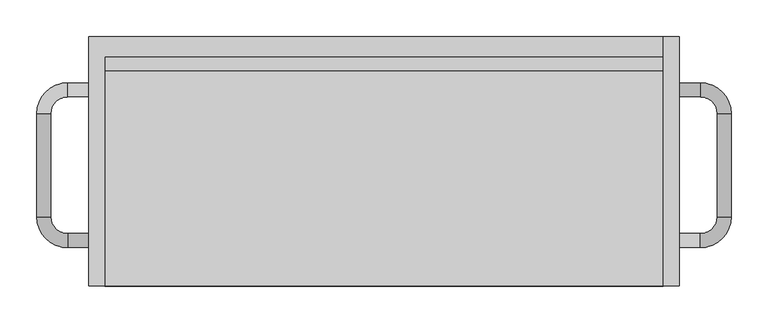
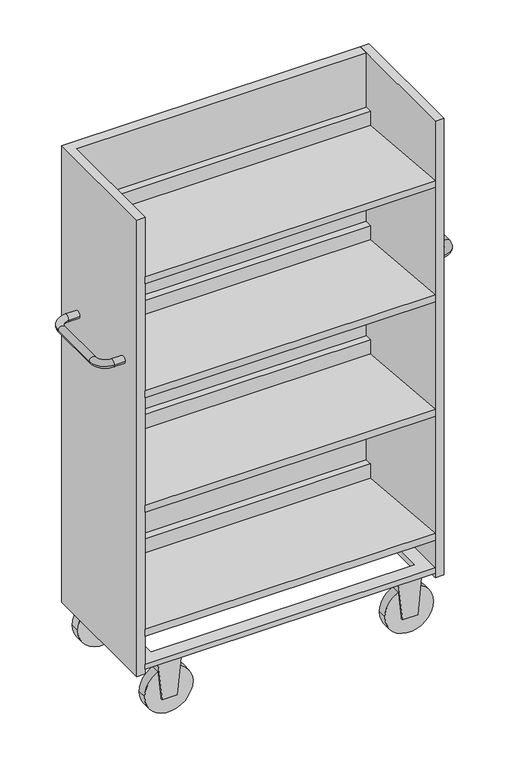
"""IFC4 building model written with IfcOpenShell, lengths in millimetres: furniture geometry, BK Library - Exlibris - Book Trolley Large : BK Library - Exlibris - Book Trolley Large."""

from ifc_helpers import new_model, si_unit, point, frame, frame_2d, origin, place, context, project, spatial, polyline, circle_curve, ellipse_curve, trimmed, segment, composite_curve, outline, extrude, faceted_brep, source, transform, mapped, element, save
from ifc_brep_helpers import plane_surface, cylinder_surface, revolved_surface, advanced_brep


def furniture_fa00082e(model_context):
    return source(origin(), model_context, "Body", "SolidModel", [
        extrude(outline(polyline([(-170.0000004, 235.2662928), (-170.0000004, 254.3381826), (123.9999896, 228.739766), (123.9999896, 268.0135567), (142.9999896, 268.0135567), (142.9999896, 208.0135567), (-170.0000004, 235.2662928)])), frame((-379.9999958, 0.0, 0.0), z_axis=(1.0, 0.0, 0.0), x_axis=(0.0, 1.0, 0.0)), (0.0, 0.0, 1.0), 759.9999767),
        extrude(outline(polyline([(-170.0000004, 895.2679976), (-170.0000004, 914.3405715), (123.9999896, 888.6189123), (123.9999896, 927.8840534), (142.9999896, 927.8840534), (142.9999896, 867.8840534), (-170.0000004, 895.2679976)])), frame((-379.9999958, 0.0, 0.0), z_axis=(1.0, 0.0, 0.0), x_axis=(0.0, 1.0, 0.0)), (0.0, 0.0, 1.0), 759.9999767),
        extrude(outline(polyline([(-170.0000004, 578.9679728), (-170.0000004, 598.0405467), (123.9999896, 572.3188875), (123.9999896, 611.5840286), (142.9999896, 611.5840286), (142.9999896, 551.5840286), (-170.0000004, 578.9679728)])), frame((-379.9999958, 0.0, 0.0), z_axis=(1.0, 0.0, 0.0), x_axis=(0.0, 1.0, 0.0)), (0.0, 0.0, 1.0), 759.9999767),
        extrude(outline(polyline([(-170.0000004, 1211.5680224), (-170.0000004, 1230.6405963), (123.9999896, 1204.9189371), (123.9999896, 1244.1840782), (142.9999896, 1244.1840782), (142.9999896, 1184.1840782), (-170.0000004, 1211.5680224)])), frame((-379.9999958, 0.0, 0.0), z_axis=(1.0, 0.0, 0.0), x_axis=(0.0, 1.0, 0.0)), (0.0, 0.0, 1.0), 759.9999767),
        extrude(outline(polyline([(-379.9999958, -170.0000004), (-379.9999958, 169.9999984), (379.9999958, 169.9999984), (379.9999958, -170.0000004), (-379.9999958, -170.0000004)]), holes=[polyline([(345.0000098, 135.0), (-345.0, 135.0), (-345.0, -135.000002), (345.0000098, -135.000002), (345.0000098, 135.0)])]), frame((0.0, 0.0, 143.5246151), z_axis=(0.0, 0.0, 1.0), x_axis=(1.0, 0.0, 0.0)), (0.0, 0.0, 1.0), 14.9999928),
        advanced_brep(
        [(401.9999994, 88.0399554, 972.0246135), (401.9999994, 107.0399554, 972.0246135), (430.8160051, 107.0399554, 972.0246135), (430.8160051, 88.0399554, 972.0246135), (453.8160051, 65.0399554, 972.0246135), (472.8160051, 65.0399554, 972.0246135), (472.8160051, -75.5438715, 972.0246135), (453.8160051, -75.5438715, 972.0246135), (430.8622357, -98.4976409, 972.0246135), (430.8622357, -117.4976409, 972.0246135), (401.9999994, -98.4976409, 972.0246135), (401.9999994, -117.4976409, 972.0246135)],
        [
            (0, 1, circle_curve(frame((401.9999994, 97.5399554, 972.0246135), z_axis=(-1.0, 0.0, 0.0), x_axis=(0.0, 1.0, 0.0)), 9.5)),
            (1, 0, circle_curve(frame((401.9999994, 97.5399554, 972.0246135), z_axis=(-1.0, 0.0, 0.0), x_axis=(0.0, 1.0, 0.0)), 9.5)),
            (1, 2),
            (2, 3, circle_curve(frame((430.8160051, 97.5399554, 972.0246135), z_axis=(-1.0, 0.0, 0.0), x_axis=(0.0, 1.0, 0.0)), 9.5)),
            (3, 0),
            (3, 2, circle_curve(frame((430.8160051, 97.5399554, 972.0246135), z_axis=(-1.0, 0.0, 0.0), x_axis=(0.0, 1.0, 0.0)), 9.5)),
            (4, 3, circle_curve(frame((430.8160051, 65.0399554, 972.0246135), z_axis=(0.0, 0.0, 1.0), x_axis=(0.0, 1.0, 0.0)), 23.0)),
            (2, 5, circle_curve(frame((430.8160051, 65.0399554, 972.0246135), z_axis=(0.0, 0.0, -1.0), x_axis=(0.0, 1.0, 0.0)), 42.0)),
            (5, 4, circle_curve(frame((463.3160051, 65.0399554, 972.0246135), z_axis=(0.0, 1.0, 0.0), x_axis=(1.0, 0.0, 0.0)), 9.5)),
            (4, 5, circle_curve(frame((463.3160051, 65.0399554, 972.0246135), z_axis=(0.0, 1.0, 0.0), x_axis=(1.0, 0.0, 0.0)), 9.5)),
            (5, 6),
            (6, 7, circle_curve(frame((463.3160051, -75.5438715, 972.0246135), z_axis=(0.0, 1.0, 0.0), x_axis=(1.0, 0.0, 0.0)), 9.5)),
            (7, 4),
            (7, 6, circle_curve(frame((463.3160051, -75.5438715, 972.0246135), z_axis=(0.0, 1.0, 0.0), x_axis=(1.0, 0.0, 0.0)), 9.5)),
            (8, 7, circle_curve(frame((430.8622357, -75.5438715, 972.0246135), z_axis=(0.0, 0.0, 1.0), x_axis=(1.0, 0.0, 0.0)), 22.9537695)),
            (6, 9, circle_curve(frame((430.8622357, -75.5438715, 972.0246135), z_axis=(0.0, 0.0, -1.0), x_axis=(1.0, 0.0, 0.0)), 41.9537695)),
            (9, 8, circle_curve(frame((430.8622357, -107.9976409, 972.0246135), z_axis=(1.0, 0.0, 0.0), x_axis=(0.0, -1.0, 0.0)), 9.5)),
            (8, 9, circle_curve(frame((430.8622357, -107.9976409, 972.0246135), z_axis=(1.0, 0.0, 0.0), x_axis=(0.0, -1.0, 0.0)), 9.5)),
            (10, 11, circle_curve(frame((401.9999994, -107.9976409, 972.0246135), z_axis=(-1.0, 0.0, 0.0), x_axis=(0.0, -1.0, 0.0)), 9.5)),
            (11, 10, circle_curve(frame((401.9999994, -107.9976409, 972.0246135), z_axis=(-1.0, 0.0, 0.0), x_axis=(0.0, -1.0, 0.0)), 9.5)),
            (9, 11),
            (10, 8),
        ],
        [
            plane_surface(frame((401.9999994, 88.0399554, 45.0237324), z_axis=(-1.0, 0.0, 0.0), x_axis=(0.0, 0.0, 1.0))),
            cylinder_surface(frame((401.9999994, 97.5399554, 972.0246135), z_axis=(-1.0, 0.0, 0.0), x_axis=(0.0, 1.0, 0.0)), 9.5),
            revolved_surface(trimmed(ellipse_curve(frame((430.8160051, 97.5399554, 972.0246135), z_axis=(-1.0, 0.0, 0.0), x_axis=(0.0, 1.0, 0.0)), 9.5, 9.5), [point((430.8160051, 107.0399554, 972.0246135))], [point((430.8160051, 88.0399554, 972.0246135))], True, "CARTESIAN"), (430.8160051, 65.0399554, 45.0237324), (0.0, 0.0, -1.0)),
            revolved_surface(trimmed(ellipse_curve(frame((430.8160051, 97.5399554, 972.0246135), z_axis=(-1.0, 0.0, 0.0), x_axis=(0.0, 1.0, 0.0)), 9.5, 9.5), [point((430.8160051, 88.0399554, 972.0246135))], [point((430.8160051, 107.0399554, 972.0246135))], True, "CARTESIAN"), (430.8160051, 65.0399554, 45.0237324), (0.0, 0.0, -1.0)),
            cylinder_surface(frame((463.3160051, 65.0399554, 972.0246135), z_axis=(0.0, 1.0, 0.0), x_axis=(1.0, 0.0, 0.0)), 9.5),
            revolved_surface(trimmed(ellipse_curve(frame((463.3160051, -75.5438715, 972.0246135), z_axis=(0.0, 1.0, 0.0), x_axis=(1.0, 0.0, 0.0)), 9.5, 9.5), [point((472.8160051, -75.5438715, 972.0246135))], [point((453.8160051, -75.5438715, 972.0246135))], True, "CARTESIAN"), (430.8622357, -75.5438715, 45.0237324), (0.0, 0.0, -1.0)),
            revolved_surface(trimmed(ellipse_curve(frame((463.3160051, -75.5438715, 972.0246135), z_axis=(0.0, 1.0, 0.0), x_axis=(1.0, 0.0, 0.0)), 9.5, 9.5), [point((453.8160051, -75.5438715, 972.0246135))], [point((472.8160051, -75.5438715, 972.0246135))], True, "CARTESIAN"), (430.8622357, -75.5438715, 45.0237324), (0.0, 0.0, -1.0)),
            plane_surface(frame((401.9999994, -98.4976409, 45.0237324), z_axis=(-1.0, 0.0, 0.0), x_axis=(0.0, 0.0, 1.0))),
            cylinder_surface(frame((430.8622357, -107.9976409, 972.0246135), z_axis=(1.0, 0.0, 0.0), x_axis=(0.0, -1.0, 0.0)), 9.5),
        ],
        [
            (0, [[1, 2]]),
            (1, [[-2, 3, 4, 5]]),
            (1, [[-1, -5, 6, -3]]),
            (2, [[7, -4, 8, 9]]),
            (3, [[-8, -6, -7, 10]]),
            (4, [[-9, 11, 12, 13]]),
            (4, [[-10, -13, 14, -11]]),
            (5, [[15, -12, 16, 17]]),
            (6, [[-16, -14, -15, 18]]),
            (7, [[19, 20]]),
            (8, [[-17, 21, -19, 22]]),
            (8, [[-18, -22, -20, -21]]),
        ],
    ),
        advanced_brep(
        [(-401.9999994, 107.0399554, 972.0246135), (-401.9999994, 88.0399554, 972.0246135), (-430.8160051, 107.0399554, 972.0246135), (-430.8160051, 88.0399554, 972.0246135), (-453.8160051, 65.0399554, 972.0246135), (-472.8160051, 65.0399554, 972.0246135), (-472.8160051, -75.5438715, 972.0246135), (-453.8160051, -75.5438715, 972.0246135), (-430.8622357, -98.4976409, 972.0246135), (-430.8622357, -117.4976409, 972.0246135), (-401.9999994, -117.4976409, 972.0246135), (-401.9999994, -98.4976409, 972.0246135)],
        [
            (0, 1, circle_curve(frame((-401.9999994, 97.5399554, 972.0246135), z_axis=(1.0, 0.0, 0.0), x_axis=(0.0, -1.0, 0.0)), 9.5)),
            (1, 0, circle_curve(frame((-401.9999994, 97.5399554, 972.0246135), z_axis=(1.0, 0.0, 0.0), x_axis=(0.0, -1.0, 0.0)), 9.5)),
            (0, 2),
            (2, 3, circle_curve(frame((-430.8160051, 97.5399554, 972.0246135), z_axis=(1.0, 0.0, 0.0), x_axis=(0.0, -1.0, 0.0)), 9.5)),
            (3, 1),
            (3, 2, circle_curve(frame((-430.8160051, 97.5399554, 972.0246135), z_axis=(1.0, 0.0, 0.0), x_axis=(0.0, -1.0, 0.0)), 9.5)),
            (4, 3, circle_curve(frame((-430.8160051, 65.0399554, 972.0246135), z_axis=(0.0, 0.0, -1.0), x_axis=(0.0, 1.0, 0.0)), 23.0)),
            (2, 5, circle_curve(frame((-430.8160051, 65.0399554, 972.0246135), z_axis=(0.0, 0.0, 1.0), x_axis=(0.0, 1.0, 0.0)), 42.0)),
            (5, 4, circle_curve(frame((-463.3160051, 65.0399554, 972.0246135), z_axis=(0.0, 1.0, 0.0), x_axis=(1.0, 0.0, 0.0)), 9.5)),
            (4, 5, circle_curve(frame((-463.3160051, 65.0399554, 972.0246135), z_axis=(0.0, 1.0, 0.0), x_axis=(1.0, 0.0, 0.0)), 9.5)),
            (5, 6),
            (6, 7, circle_curve(frame((-463.3160051, -75.5438715, 972.0246135), z_axis=(0.0, 1.0, 0.0), x_axis=(1.0, 0.0, 0.0)), 9.5)),
            (7, 4),
            (7, 6, circle_curve(frame((-463.3160051, -75.5438715, 972.0246135), z_axis=(0.0, 1.0, 0.0), x_axis=(1.0, 0.0, 0.0)), 9.5)),
            (8, 7, circle_curve(frame((-430.8622357, -75.5438715, 972.0246135), z_axis=(0.0, 0.0, -1.0), x_axis=(-1.0, 0.0, 0.0)), 22.9537695)),
            (6, 9, circle_curve(frame((-430.8622357, -75.5438715, 972.0246135), z_axis=(0.0, 0.0, 1.0), x_axis=(-1.0, 0.0, 0.0)), 41.9537695)),
            (9, 8, circle_curve(frame((-430.8622357, -107.9976409, 972.0246135), z_axis=(-1.0, 0.0, 0.0), x_axis=(0.0, 1.0, 0.0)), 9.5)),
            (8, 9, circle_curve(frame((-430.8622357, -107.9976409, 972.0246135), z_axis=(-1.0, 0.0, 0.0), x_axis=(0.0, 1.0, 0.0)), 9.5)),
            (10, 11, circle_curve(frame((-401.9999994, -107.9976409, 972.0246135), z_axis=(1.0, 0.0, 0.0), x_axis=(0.0, 1.0, 0.0)), 9.5)),
            (11, 10, circle_curve(frame((-401.9999994, -107.9976409, 972.0246135), z_axis=(1.0, 0.0, 0.0), x_axis=(0.0, 1.0, 0.0)), 9.5)),
            (9, 10),
            (11, 8),
        ],
        [
            plane_surface(frame((-401.9999994, 88.0399554, 45.0237324), z_axis=(1.0, 0.0, 0.0), x_axis=(0.0, 0.0, 1.0))),
            cylinder_surface(frame((-401.9999994, 97.5399554, 972.0246135), z_axis=(1.0, 0.0, 0.0), x_axis=(0.0, -1.0, 0.0)), 9.5),
            revolved_surface(trimmed(ellipse_curve(frame((-430.8160051, 97.5399554, 972.0246135), z_axis=(1.0, 0.0, 0.0), x_axis=(0.0, -1.0, 0.0)), 9.5, 9.5), [point((-430.8160051, 107.0399554, 972.0246135))], [point((-430.8160051, 88.0399554, 972.0246135))], True, "CARTESIAN"), (-430.8160051, 65.0399554, 45.0237324), (0.0, 0.0, 1.0)),
            revolved_surface(trimmed(ellipse_curve(frame((-430.8160051, 97.5399554, 972.0246135), z_axis=(1.0, 0.0, 0.0), x_axis=(0.0, -1.0, 0.0)), 9.5, 9.5), [point((-430.8160051, 88.0399554, 972.0246135))], [point((-430.8160051, 107.0399554, 972.0246135))], True, "CARTESIAN"), (-430.8160051, 65.0399554, 45.0237324), (0.0, 0.0, 1.0)),
            cylinder_surface(frame((-463.3160051, 65.0399554, 972.0246135), z_axis=(0.0, 1.0, 0.0), x_axis=(1.0, 0.0, 0.0)), 9.5),
            revolved_surface(trimmed(ellipse_curve(frame((-463.3160051, -75.5438715, 972.0246135), z_axis=(0.0, 1.0, 0.0), x_axis=(1.0, 0.0, 0.0)), 9.5, 9.5), [point((-472.8160051, -75.5438715, 972.0246135))], [point((-453.8160051, -75.5438715, 972.0246135))], True, "CARTESIAN"), (-430.8622357, -75.5438715, 45.0237324), (0.0, 0.0, 1.0)),
            revolved_surface(trimmed(ellipse_curve(frame((-463.3160051, -75.5438715, 972.0246135), z_axis=(0.0, 1.0, 0.0), x_axis=(1.0, 0.0, 0.0)), 9.5, 9.5), [point((-453.8160051, -75.5438715, 972.0246135))], [point((-472.8160051, -75.5438715, 972.0246135))], True, "CARTESIAN"), (-430.8622357, -75.5438715, 45.0237324), (0.0, 0.0, 1.0)),
            plane_surface(frame((-401.9999994, -98.4976409, 45.0237324), z_axis=(1.0, 0.0, 0.0), x_axis=(0.0, 0.0, 1.0))),
            cylinder_surface(frame((-430.8622357, -107.9976409, 972.0246135), z_axis=(-1.0, 0.0, 0.0), x_axis=(0.0, 1.0, 0.0)), 9.5),
        ],
        [
            (0, [[1, 2]]),
            (1, [[-1, 3, 4, 5]]),
            (1, [[-2, -5, 6, -3]]),
            (2, [[7, -4, 8, 9]]),
            (3, [[-8, -6, -7, 10]]),
            (4, [[-9, 11, 12, 13]]),
            (4, [[-10, -13, 14, -11]]),
            (5, [[15, -12, 16, 17]]),
            (6, [[-16, -14, -15, 18]]),
            (7, [[19, 20]]),
            (8, [[-17, 21, -20, 22]]),
            (8, [[-18, -22, -19, -21]]),
        ],
    ),
        extrude(outline(polyline([(379.9999958, -170.0000004), (379.9999958, 169.9999984), (401.9999994, 169.9999984), (401.9999994, -170.0000004), (379.9999958, -170.0000004)])), frame((0.0, 0.0, 131.5246135), z_axis=(0.0, 0.0, 1.0), x_axis=(1.0, 0.0, 0.0)), (0.0, 0.0, 1.0), 1263.4753865),
        faceted_brep([(-379.9999958, -170.0000004, 131.5246135), (-379.9999958, 169.9999984, 131.5246135), (-379.9999958, 169.9999984, 208.0135567), (-379.9999958, 142.9999896, 208.0135567), (-379.9999958, 142.9999896, 1395.0), (-379.9999958, -170.0000004, 1395.0), (-401.9999994, -170.0000004, 131.5246135), (-401.9999994, -170.0000004, 1395.0), (-401.9999994, 169.9999984, 1395.0), (-401.9999994, 169.9999984, 131.5246135), (379.999981, 169.9999984, 1395.0), (379.999981, 169.9999984, 208.0135567), (379.999981, 142.9999896, 1395.0), (379.999981, 142.9999896, 208.0135567)], [[[0, 1, 2, 3, 4, 5]], [[6, 7, 8, 9]], [[1, 0, 6, 9]], [[9, 8, 10, 11, 2, 1]], [[10, 8, 7, 5, 4, 12]], [[0, 5, 7, 6]], [[10, 12, 13, 11]], [[11, 13, 3, 2]], [[13, 12, 4, 3]]]),
        extrude(outline(polyline([(143.5246151, 284.7814982), (43.1604333, 294.8179132), (43.1604333, 334.9635823), (143.5246151, 344.9999973), (143.5246151, 284.7814982)])), frame((0.0, -168.1870887, 0.0), z_axis=(0.0, 1.0, 0.0), x_axis=(0.0, 0.0, 1.0)), (0.0, 0.0, 1.0), 33.1870868),
        extrude(outline(composite_curve([segment(trimmed(circle_curve(frame_2d((63.2332701, 314.8907432)), 63.2332701), [point((63.2332701, 251.6574731))], [point((63.2332701, 378.1240133))], False, "CARTESIAN"), True, "CONTINUOUS"), segment(trimmed(circle_curve(frame_2d((63.2332701, 314.8907432)), 63.2332701), [point((63.2332701, 378.1240133))], [point((63.2332701, 251.6574731))], False, "CARTESIAN"), True, "CONTINUOUS")], self_intersect=False)), frame((0.0, -164.0387046, 0.0), z_axis=(0.0, 1.0, 0.0), x_axis=(0.0, 0.0, 1.0)), (0.0, 0.0, 1.0), 24.8903185),
        extrude(outline(polyline([(143.5246151, 284.7814982), (43.1604333, 294.8179132), (43.1604333, 334.9635823), (143.5246151, 344.9999973), (143.5246151, 284.7814982)])), frame((0.0, 135.000002, 0.0), z_axis=(0.0, 1.0, 0.0), x_axis=(0.0, 0.0, 1.0)), (0.0, 0.0, 1.0), 33.1870868),
        extrude(outline(composite_curve([segment(trimmed(circle_curve(frame_2d((63.2332701, 314.8907432)), 63.2332701), [point((63.2332701, 251.6574731))], [point((63.2332701, 378.1240133))], False, "CARTESIAN"), True, "CONTINUOUS"), segment(trimmed(circle_curve(frame_2d((63.2332701, 314.8907432)), 63.2332701), [point((63.2332701, 378.1240133))], [point((63.2332701, 251.6574731))], False, "CARTESIAN"), True, "CONTINUOUS")], self_intersect=False)), frame((0.0, 139.1483861, 0.0), z_axis=(0.0, 1.0, 0.0), x_axis=(0.0, 0.0, 1.0)), (0.0, 0.0, 1.0), 24.8903185),
        extrude(outline(polyline([(143.5246151, -284.7814982), (143.5246151, -344.9999973), (43.1604333, -334.9635823), (43.1604333, -294.8179132), (143.5246151, -284.7814982)])), frame((0.0, 135.000002, 0.0), z_axis=(0.0, 1.0, 0.0), x_axis=(0.0, 0.0, 1.0)), (0.0, 0.0, 1.0), 33.1870868),
        extrude(outline(composite_curve([segment(trimmed(circle_curve(frame_2d((63.2332701, -314.8907432)), 63.2332701), [point((63.2332701, -251.6574731))], [point((63.2332701, -378.1240133))], False, "CARTESIAN"), True, "CONTINUOUS"), segment(trimmed(circle_curve(frame_2d((63.2332701, -314.8907432)), 63.2332701), [point((63.2332701, -378.1240133))], [point((63.2332701, -251.6574731))], False, "CARTESIAN"), True, "CONTINUOUS")], self_intersect=False)), frame((0.0, 139.1483861, 0.0), z_axis=(0.0, 1.0, 0.0), x_axis=(0.0, 0.0, 1.0)), (0.0, 0.0, 1.0), 24.8903185),
        extrude(outline(polyline([(143.5246151, -284.7814982), (143.5246151, -344.9999973), (43.1604333, -334.9635823), (43.1604333, -294.8179132), (143.5246151, -284.7814982)])), frame((0.0, -168.1870887, 0.0), z_axis=(0.0, 1.0, 0.0), x_axis=(0.0, 0.0, 1.0)), (0.0, 0.0, 1.0), 33.1870868),
        extrude(outline(composite_curve([segment(trimmed(circle_curve(frame_2d((63.2332701, -314.8907432)), 63.2332701), [point((63.2332701, -251.6574731))], [point((63.2332701, -378.1240133))], False, "CARTESIAN"), True, "CONTINUOUS"), segment(trimmed(circle_curve(frame_2d((63.2332701, -314.8907432)), 63.2332701), [point((63.2332701, -378.1240133))], [point((63.2332701, -251.6574731))], False, "CARTESIAN"), True, "CONTINUOUS")], self_intersect=False)), frame((0.0, -164.0387046, 0.0), z_axis=(0.0, 1.0, 0.0), x_axis=(0.0, 0.0, 1.0)), (0.0, 0.0, 1.0), 24.8903185),
    ])


if __name__ == "__main__":
    model = new_model("IFC4")
    model_context = context("Model", 3, world=origin())
    ifc_project = project(units=[si_unit("LENGTHUNIT", "METRE", prefix="MILLI")], contexts=[model_context])
    site = spatial("IfcSite", under=ifc_project)
    building = spatial("IfcBuilding", under=site)
    placement = place(None, origin())
    furniture_shape = furniture_fa00082e(model_context)
    element("IfcFurniture", 1, ObjectType="BK Library - Exlibris - Book Trolley Large : BK Library - Exlibris - Book Trolley Large", at=placement, inside=building, context=model_context, shape_type="MappedRepresentation", body=[
        mapped(furniture_shape, transform((0.0, 0.0, 0.0), x_axis=(1.0, 0.0, 0.0), y_axis=(0.0, 1.0, 0.0), z_axis=(0.0, 0.0, 1.0))),
    ])
    save(model, "model.ifc")
